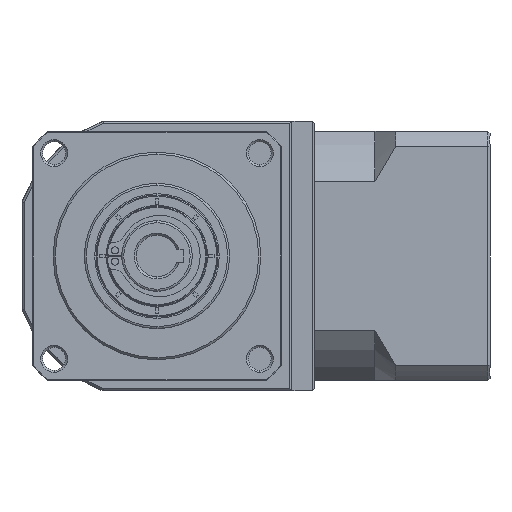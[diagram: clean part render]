
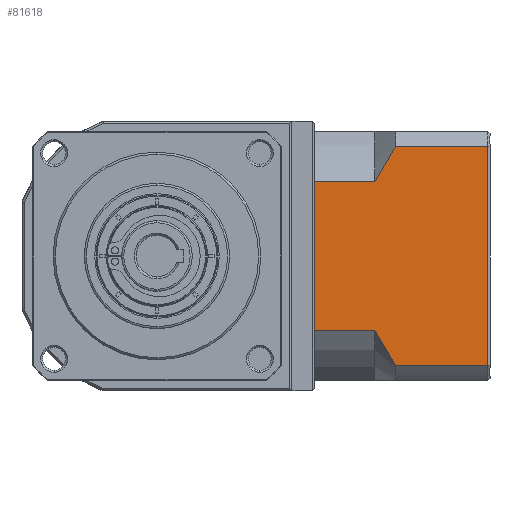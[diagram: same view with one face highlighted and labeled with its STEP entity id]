
A CAD part, left-side view. The second image highlights one B-rep face of the part: STEP entity #81618.
In plain terms, the highlighted planar face has unit normal (-1, 0, 0).
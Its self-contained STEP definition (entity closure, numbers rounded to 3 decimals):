
#4571 = B_SPLINE_CURVE_WITH_KNOTS ( 'NONE', 3,
 ( #45818, #35152, #33388, #34568, #33971, #32817 ),
 .UNSPECIFIED., .F., .F.,
 ( 4, 2, 4 ),
 ( 0.052, 0.057, 0.062 ),
 .UNSPECIFIED. ) ;
#7147 = EDGE_CURVE ( 'NONE', #48703, #156478, #4571, .T. ) ;
#11405 = CARTESIAN_POINT ( 'NONE',  ( -155.404, -8.463, 2.476 ) ) ;
#14224 = CARTESIAN_POINT ( 'NONE',  ( -155.404, -5.238, 44.218 ) ) ;
#15497 = DIRECTION ( 'NONE',  ( 0., 1., 0. ) ) ;
#17630 = VECTOR ( 'NONE', #18946, 1000. ) ;
#18946 = DIRECTION ( 'NONE',  ( 0., -1., 0. ) ) ;
#25002 = CARTESIAN_POINT ( 'NONE',  ( -155.404, -10.238, -0.267 ) ) ;
#25273 = ORIENTED_EDGE ( 'NONE', *, *, #84523, .T. ) ;
#29610 = EDGE_CURVE ( 'NONE', #169301, #156302, #130506, .T. ) ;
#30934 = CARTESIAN_POINT ( 'NONE',  ( -155.404, -5.238, 44.218 ) ) ;
#32817 = CARTESIAN_POINT ( 'NONE',  ( -155.404, -5.238, 44.218 ) ) ;
#33388 = CARTESIAN_POINT ( 'NONE',  ( -155.404, -8.465, 49.91 ) ) ;
#33971 = CARTESIAN_POINT ( 'NONE',  ( -155.404, -5.986, 45.671 ) ) ;
#34084 = DIRECTION ( 'NONE',  ( 0., 1., 0. ) ) ;
#34568 = CARTESIAN_POINT ( 'NONE',  ( -155.404, -6.789, 47.102 ) ) ;
#35152 = CARTESIAN_POINT ( 'NONE',  ( -155.404, -9.338, 51.288 ) ) ;
#38136 = VERTEX_POINT ( 'NONE', #146307 ) ;
#40070 = CARTESIAN_POINT ( 'NONE',  ( -155.404, -32.938, -3.809 ) ) ;
#42180 = FACE_OUTER_BOUND ( 'NONE', #75976, .T. ) ;
#44573 = DIRECTION ( 'NONE',  ( 0., -1., 0. ) ) ;
#45818 = CARTESIAN_POINT ( 'NONE',  ( -155.404, -10.238, 52.648 ) ) ;
#48703 = VERTEX_POINT ( 'NONE', #108660 ) ;
#53691 = DIRECTION ( 'NONE',  ( 0., 1., 0. ) ) ;
#57355 = AXIS2_PLACEMENT_3D ( 'NONE', #40070, #134757, #53691 ) ;
#60414 = DIRECTION ( 'NONE',  ( 0., 0., -1. ) ) ;
#62339 = CARTESIAN_POINT ( 'NONE',  ( -155.404, -32.438, -3.809 ) ) ;
#63970 = EDGE_CURVE ( 'NONE', #48703, #67735, #157382, .T. ) ;
#64728 = CARTESIAN_POINT ( 'NONE',  ( -155.404, -5.988, 6.706 ) ) ;
#65337 = CARTESIAN_POINT ( 'NONE',  ( -155.404, -5.238, 8.163 ) ) ;
#67735 = VERTEX_POINT ( 'NONE', #106772 ) ;
#68037 = LINE ( 'NONE', #30934, #99838 ) ;
#68392 = ORIENTED_EDGE ( 'NONE', *, *, #132818, .F. ) ;
#69364 = ORIENTED_EDGE ( 'NONE', *, *, #156978, .F. ) ;
#71983 = ORIENTED_EDGE ( 'NONE', *, *, #128505, .F. ) ;
#75976 = EDGE_LOOP ( 'NONE', ( #69364, #25273, #96901, #164453, #71983, #158431, #68392, #88782 ) ) ;
#78348 = VERTEX_POINT ( 'NONE', #129342 ) ;
#81618 = ADVANCED_FACE ( 'NONE', ( #42180 ), #161367, .F. ) ;
#82654 = VECTOR ( 'NONE', #116784, 1000. ) ;
#83677 = CARTESIAN_POINT ( 'NONE',  ( -155.404, -5.238, -0.267 ) ) ;
#84523 = EDGE_CURVE ( 'NONE', #87163, #67735, #158743, .T. ) ;
#86534 = CARTESIAN_POINT ( 'NONE',  ( -155.404, -5.238, 52.648 ) ) ;
#87163 = VERTEX_POINT ( 'NONE', #163889 ) ;
#88782 = ORIENTED_EDGE ( 'NONE', *, *, #112393, .T. ) ;
#92612 = CARTESIAN_POINT ( 'NONE',  ( -155.404, -6.789, 5.281 ) ) ;
#94976 = LINE ( 'NONE', #83677, #166780 ) ;
#96901 = ORIENTED_EDGE ( 'NONE', *, *, #63970, .F. ) ;
#99698 = B_SPLINE_CURVE_WITH_KNOTS ( 'NONE', 3,
 ( #65337, #64728, #92612, #11405, #106162, #25002 ),
 .UNSPECIFIED., .F., .F.,
 ( 4, 2, 4 ),
 ( 0.1, 0.104, 0.109 ),
 .UNSPECIFIED. ) ;
#99838 = VECTOR ( 'NONE', #44573, 1000. ) ;
#100482 = VECTOR ( 'NONE', #34084, 1000. ) ;
#101034 = CARTESIAN_POINT ( 'NONE',  ( -155.404, -5.238, 8.163 ) ) ;
#106162 = CARTESIAN_POINT ( 'NONE',  ( -155.404, -9.337, 1.096 ) ) ;
#106772 = CARTESIAN_POINT ( 'NONE',  ( -155.404, -32.438, 52.648 ) ) ;
#108660 = CARTESIAN_POINT ( 'NONE',  ( -155.404, -10.238, 52.648 ) ) ;
#112393 = EDGE_CURVE ( 'NONE', #78348, #38136, #99698, .T. ) ;
#116784 = DIRECTION ( 'NONE',  ( 0., 0., 1. ) ) ;
#118231 = CARTESIAN_POINT ( 'NONE',  ( -155.404, 9.262, 44.218 ) ) ;
#128505 = EDGE_CURVE ( 'NONE', #169301, #156478, #68037, .T. ) ;
#129342 = CARTESIAN_POINT ( 'NONE',  ( -155.404, -5.238, 8.163 ) ) ;
#130506 = LINE ( 'NONE', #141440, #162211 ) ;
#132818 = EDGE_CURVE ( 'NONE', #78348, #156302, #136358, .T. ) ;
#134757 = DIRECTION ( 'NONE',  ( 1., 0., 0. ) ) ;
#136358 = LINE ( 'NONE', #101034, #100482 ) ;
#141440 = CARTESIAN_POINT ( 'NONE',  ( -155.404, 9.262, -3.809 ) ) ;
#146307 = CARTESIAN_POINT ( 'NONE',  ( -155.404, -10.238, -0.267 ) ) ;
#156302 = VERTEX_POINT ( 'NONE', #159868 ) ;
#156478 = VERTEX_POINT ( 'NONE', #14224 ) ;
#156978 = EDGE_CURVE ( 'NONE', #87163, #38136, #94976, .T. ) ;
#157382 = LINE ( 'NONE', #86534, #17630 ) ;
#158431 = ORIENTED_EDGE ( 'NONE', *, *, #29610, .T. ) ;
#158743 = LINE ( 'NONE', #62339, #82654 ) ;
#159868 = CARTESIAN_POINT ( 'NONE',  ( -155.404, 9.262, 8.163 ) ) ;
#161367 = PLANE ( 'NONE',  #57355 ) ;
#162211 = VECTOR ( 'NONE', #60414, 1000. ) ;
#163889 = CARTESIAN_POINT ( 'NONE',  ( -155.404, -32.438, -0.267 ) ) ;
#164453 = ORIENTED_EDGE ( 'NONE', *, *, #7147, .T. ) ;
#166780 = VECTOR ( 'NONE', #15497, 1000. ) ;
#169301 = VERTEX_POINT ( 'NONE', #118231 ) ;
